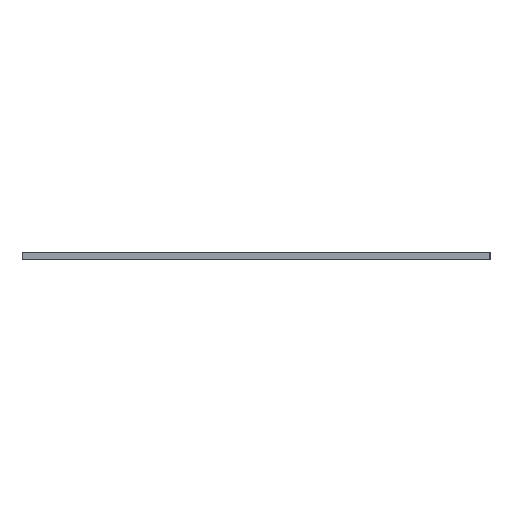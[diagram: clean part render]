
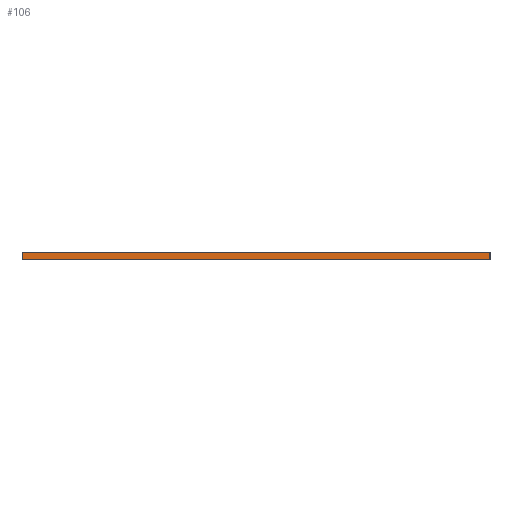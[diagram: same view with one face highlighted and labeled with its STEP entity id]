
A CAD part, left-side view. The second image highlights one B-rep face of the part: STEP entity #106.
In plain terms, the highlighted planar face has unit normal (-1, 0, 0).
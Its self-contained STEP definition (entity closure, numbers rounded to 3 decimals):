
#50 = VERTEX_POINT('',#51);
#51 = CARTESIAN_POINT('',(0.,-100.,1.51));
#57 = EDGE_CURVE('',#58,#50,#60,.T.);
#58 = VERTEX_POINT('',#59);
#59 = CARTESIAN_POINT('',(0.,-100.,0.));
#60 = LINE('',#61,#62);
#61 = CARTESIAN_POINT('',(0.,-100.,0.));
#62 = VECTOR('',#63,1.);
#63 = DIRECTION('',(0.,0.,1.));
#106 = ADVANCED_FACE('',(#107),#132,.T.);
#107 = FACE_BOUND('',#108,.T.);
#108 = EDGE_LOOP('',(#109,#110,#118,#126));
#109 = ORIENTED_EDGE('',*,*,#57,.T.);
#110 = ORIENTED_EDGE('',*,*,#111,.T.);
#111 = EDGE_CURVE('',#50,#112,#114,.T.);
#112 = VERTEX_POINT('',#113);
#113 = CARTESIAN_POINT('',(0.,0.,1.51));
#114 = LINE('',#115,#116);
#115 = CARTESIAN_POINT('',(0.,-100.,1.51));
#116 = VECTOR('',#117,1.);
#117 = DIRECTION('',(0.,1.,0.));
#118 = ORIENTED_EDGE('',*,*,#119,.F.);
#119 = EDGE_CURVE('',#120,#112,#122,.T.);
#120 = VERTEX_POINT('',#121);
#121 = CARTESIAN_POINT('',(0.,-0.,0.));
#122 = LINE('',#123,#124);
#123 = CARTESIAN_POINT('',(0.,-0.,0.));
#124 = VECTOR('',#125,1.);
#125 = DIRECTION('',(0.,0.,1.));
#126 = ORIENTED_EDGE('',*,*,#127,.F.);
#127 = EDGE_CURVE('',#58,#120,#128,.T.);
#128 = LINE('',#129,#130);
#129 = CARTESIAN_POINT('',(0.,-100.,0.));
#130 = VECTOR('',#131,1.);
#131 = DIRECTION('',(0.,1.,0.));
#132 = PLANE('',#133);
#133 = AXIS2_PLACEMENT_3D('',#134,#135,#136);
#134 = CARTESIAN_POINT('',(0.,-100.,0.));
#135 = DIRECTION('',(-1.,0.,0.));
#136 = DIRECTION('',(0.,1.,0.));
